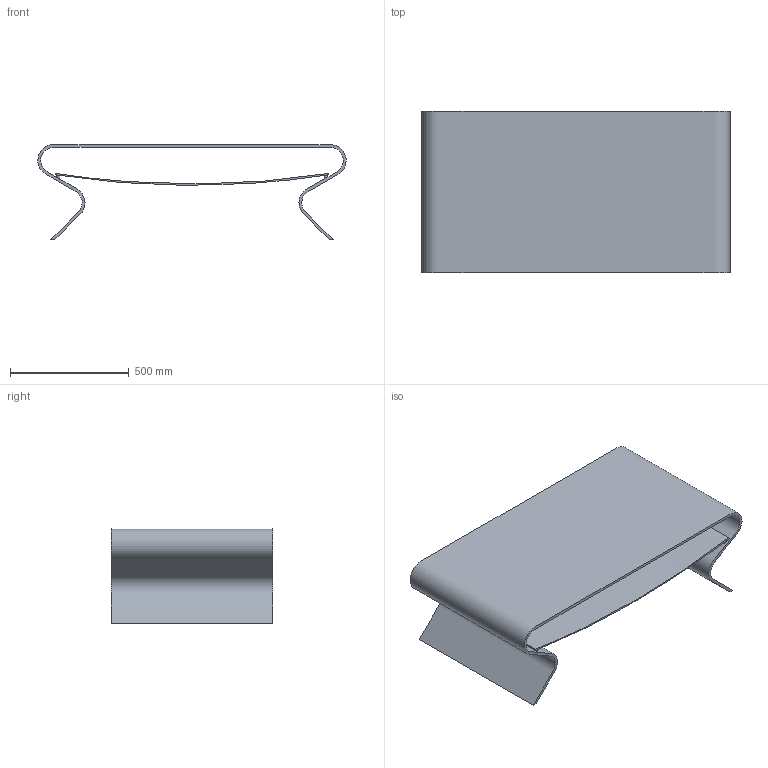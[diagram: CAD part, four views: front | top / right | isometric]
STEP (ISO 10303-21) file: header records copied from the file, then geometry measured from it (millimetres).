
FILE_DESCRIPTION(/* description */ (''),/* implementation_level */ '2;1');
FILE_NAME(/* name */ '1550 - 1551 - Charlotte con ripiano 130x68',/* time_stamp */ '2010-11-03T17:23:56+01:00',/* author */ (''),/* organization */ (''),/* preprocessor_version */ 'ST-DEVELOPER v10',/* originating_system */ '',/* authorisation */ '');
FILE_SCHEMA (('CONFIG_CONTROL_DESIGN'));
Length unit declared in the file: centimetre
Products named in the file (1): 1
Bounding box: 1299.45 x 680 x 400.1 mm (x, y, z)
Volume: 24077268.8 mm3; surface area: 4799011.6 mm2
Topology: 6 solids, 6 shells, 29 faces, 51 edges, 34 vertices
Faces by surface type: plane 16, bspline 13
Entity records: 1043 total; most frequent: CARTESIAN_POINT 578, ORIENTED_EDGE 102, EDGE_CURVE 51, B_SPLINE_CURVE_WITH_KNOTS 41, VERTEX_POINT 34, ADVANCED_FACE 29, FACE_OUTER_BOUND 29, EDGE_LOOP 29
